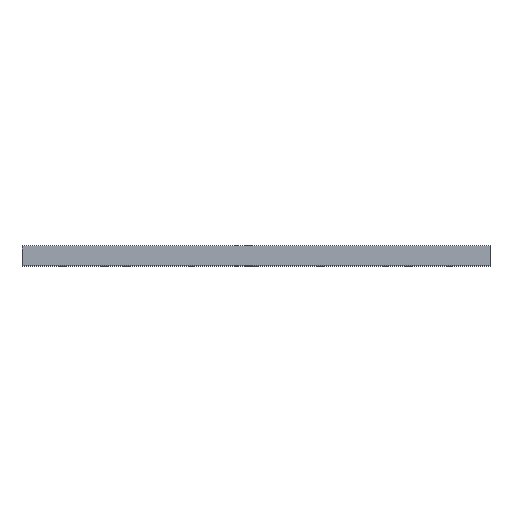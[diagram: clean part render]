
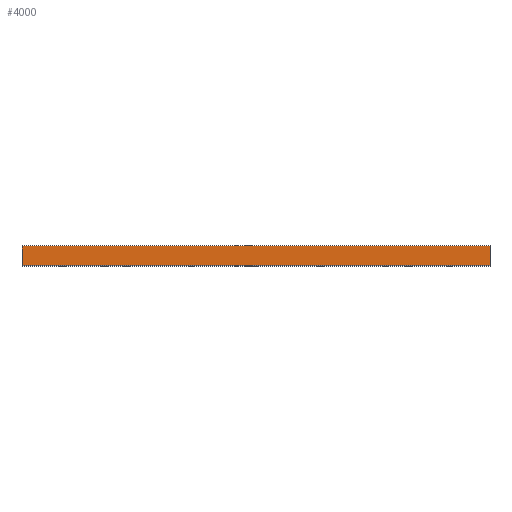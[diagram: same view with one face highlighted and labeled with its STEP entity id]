
A CAD part, top view. The second image highlights one B-rep face of the part: STEP entity #4000.
In plain terms, the highlighted planar face has unit normal (0, 0, 1).
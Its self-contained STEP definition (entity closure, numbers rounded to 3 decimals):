
#177 = DIRECTION ( 'NONE',  ( 0., -1., 0. ) ) ;
#180 = CARTESIAN_POINT ( 'NONE',  ( 215.5, 7., 80. ) ) ;
#183 = DIRECTION ( 'NONE',  ( -1., 0., 0. ) ) ;
#187 = CARTESIAN_POINT ( 'NONE',  ( 215.5, -2., 80. ) ) ;
#197 = DIRECTION ( 'NONE',  ( 0., -1., 0. ) ) ;
#201 = CARTESIAN_POINT ( 'NONE',  ( 0., 7., 80. ) ) ;
#220 = DIRECTION ( 'NONE',  ( -1., 0., 0. ) ) ;
#228 = CARTESIAN_POINT ( 'NONE',  ( 215.5, 7., 80. ) ) ;
#482 = AXIS2_PLACEMENT_3D ( 'NONE', #1369, #1368, #1367 ) ;
#1000 = EDGE_CURVE ( 'NONE', #3235, #3234, #2017, .T. ) ;
#1003 = EDGE_CURVE ( 'NONE', #3234, #3236, #2012, .T. ) ;
#1005 = EDGE_CURVE ( 'NONE', #3628, #3236, #2008, .T. ) ;
#1006 = EDGE_CURVE ( 'NONE', #3235, #3628, #2006, .T. ) ;
#1367 = DIRECTION ( 'NONE',  ( -1., 0., 0. ) ) ;
#1368 = DIRECTION ( 'NONE',  ( 0., 0., -1. ) ) ;
#1369 = CARTESIAN_POINT ( 'NONE',  ( 215.5, 7., 80. ) ) ;
#1371 = PLANE ( 'NONE',  #482 ) ;
#1742 = FACE_OUTER_BOUND ( 'NONE', #2429, .T. ) ;
#2005 = VECTOR ( 'NONE', #177, 1000. ) ;
#2006 = LINE ( 'NONE', #180, #2005 ) ;
#2007 = VECTOR ( 'NONE', #183, 1000. ) ;
#2008 = LINE ( 'NONE', #187, #2007 ) ;
#2011 = VECTOR ( 'NONE', #197, 1000. ) ;
#2012 = LINE ( 'NONE', #201, #2011 ) ;
#2016 = VECTOR ( 'NONE', #220, 1000. ) ;
#2017 = LINE ( 'NONE', #228, #2016 ) ;
#2429 = EDGE_LOOP ( 'NONE', ( #3282, #3281, #3497, #3375 ) ) ;
#2777 = CARTESIAN_POINT ( 'NONE',  ( 215.5, -2., 80. ) ) ;
#2786 = CARTESIAN_POINT ( 'NONE',  ( 0., -2., 80. ) ) ;
#2787 = CARTESIAN_POINT ( 'NONE',  ( 215.5, 7., 80. ) ) ;
#2788 = CARTESIAN_POINT ( 'NONE',  ( 0., 7., 80. ) ) ;
#3234 = VERTEX_POINT ( 'NONE', #2788 ) ;
#3235 = VERTEX_POINT ( 'NONE', #2787 ) ;
#3236 = VERTEX_POINT ( 'NONE', #2786 ) ;
#3281 = ORIENTED_EDGE ( 'NONE', *, *, #1005, .F. ) ;
#3282 = ORIENTED_EDGE ( 'NONE', *, *, #1003, .T. ) ;
#3375 = ORIENTED_EDGE ( 'NONE', *, *, #1000, .T. ) ;
#3497 = ORIENTED_EDGE ( 'NONE', *, *, #1006, .F. ) ;
#3628 = VERTEX_POINT ( 'NONE', #2777 ) ;
#4000 = ADVANCED_FACE ( 'NONE', ( #1742 ), #1371, .F. ) ;
